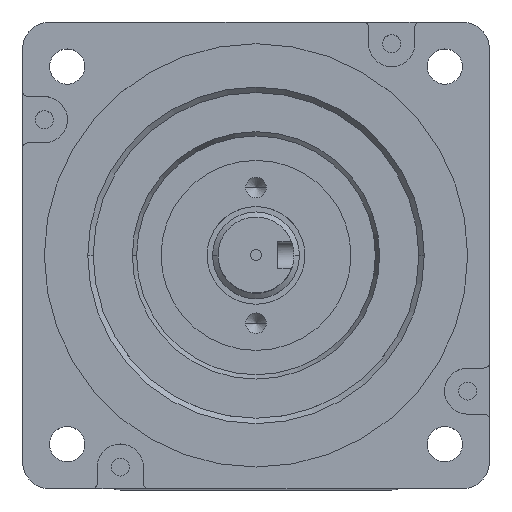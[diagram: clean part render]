
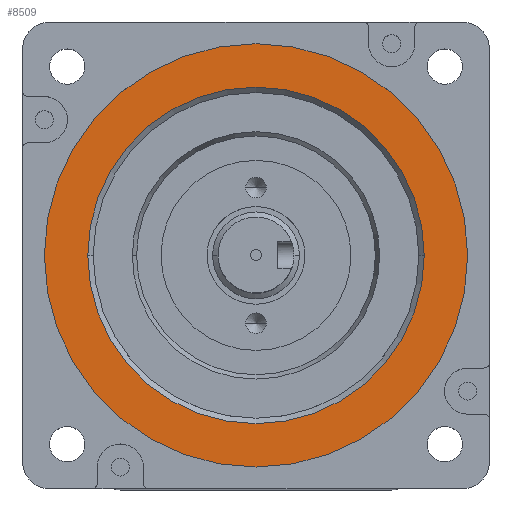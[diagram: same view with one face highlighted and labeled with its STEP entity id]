
A CAD part, top view. The second image highlights one B-rep face of the part: STEP entity #8509.
In plain terms, the highlighted planar face has unit normal (0, 0, 1).
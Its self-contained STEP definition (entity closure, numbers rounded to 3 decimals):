
#1202=CARTESIAN_POINT('',(43.,43.,60.8));
#1203=DIRECTION('',(0.,0.,-1.));
#1204=DIRECTION('',(1.,0.,0.));
#1205=AXIS2_PLACEMENT_3D('',#1202,#1203,#1204);
#1207=CARTESIAN_POINT('',(43.,43.,60.8));
#1208=DIRECTION('',(0.,0.,-1.));
#1209=DIRECTION('',(-1.,0.,0.));
#1210=AXIS2_PLACEMENT_3D('',#1207,#1208,#1209);
#1212=CARTESIAN_POINT('',(43.,43.,60.8));
#1213=DIRECTION('',(0.,0.,1.));
#1214=DIRECTION('',(1.,0.,0.));
#1215=AXIS2_PLACEMENT_3D('',#1212,#1213,#1214);
#1217=CARTESIAN_POINT('',(43.,43.,60.8));
#1218=DIRECTION('',(0.,0.,1.));
#1219=DIRECTION('',(-1.,0.,0.));
#1220=AXIS2_PLACEMENT_3D('',#1217,#1218,#1219);
#6804=CARTESIAN_POINT('',(4.,43.,60.8));
#6805=VERTEX_POINT('',#6804);
#6806=CARTESIAN_POINT('',(82.,43.,60.8));
#6807=VERTEX_POINT('',#6806);
#6808=CARTESIAN_POINT('',(74.,43.,60.8));
#6809=CARTESIAN_POINT('',(12.,43.,60.8));
#6810=VERTEX_POINT('',#6808);
#6811=VERTEX_POINT('',#6809);
#8494=CARTESIAN_POINT('',(43.,43.,60.8));
#8495=DIRECTION('',(0.,0.,-1.));
#8496=DIRECTION('',(-1.,0.,0.));
#8497=AXIS2_PLACEMENT_3D('',#8494,#8495,#8496);
#8498=PLANE('',#8497);
#8499=ORIENTED_EDGE('',*,*,#8474,.T.);
#8500=ORIENTED_EDGE('',*,*,#8488,.T.);
#8501=EDGE_LOOP('',(#8499,#8500));
#8502=FACE_OUTER_BOUND('',#8501,.F.);
#8504=ORIENTED_EDGE('',*,*,#8503,.T.);
#8506=ORIENTED_EDGE('',*,*,#8505,.T.);
#8507=EDGE_LOOP('',(#8504,#8506));
#8508=FACE_BOUND('',#8507,.F.);
#8509=ADVANCED_FACE('',(#8502,#8508),#8498,.F.);
#1206=CIRCLE('',#1205,39.);
#1211=CIRCLE('',#1210,39.);
#1216=CIRCLE('',#1215,31.);
#1221=CIRCLE('',#1220,31.);
#8474=EDGE_CURVE('',#6807,#6805,#1206,.T.);
#8488=EDGE_CURVE('',#6805,#6807,#1211,.T.);
#8503=EDGE_CURVE('',#6810,#6811,#1216,.T.);
#8505=EDGE_CURVE('',#6811,#6810,#1221,.T.);
